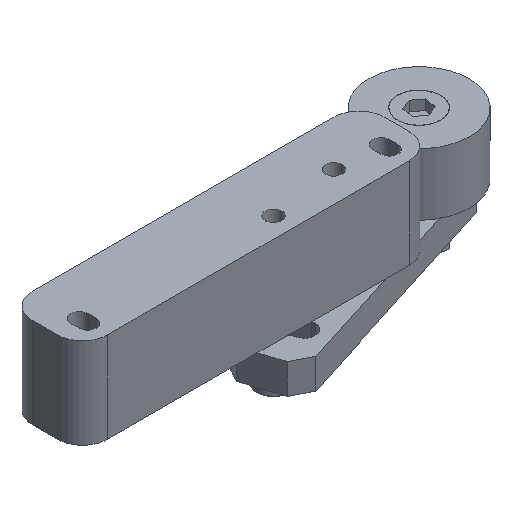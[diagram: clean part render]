
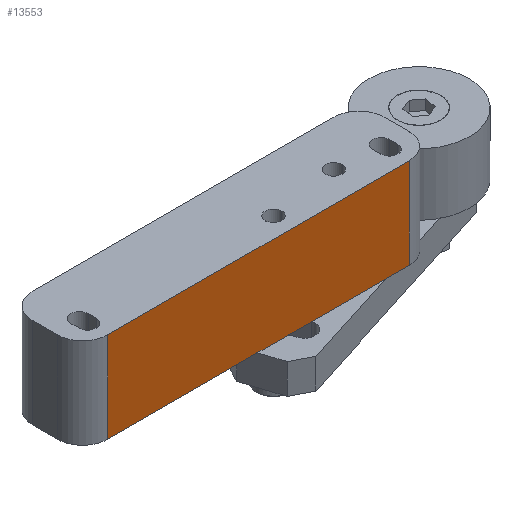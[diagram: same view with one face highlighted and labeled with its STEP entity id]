
A CAD part, isometric view. The second image highlights one B-rep face of the part: STEP entity #13553.
In plain terms, the highlighted planar face has unit normal (0, -1, 0).
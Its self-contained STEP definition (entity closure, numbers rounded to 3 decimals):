
#313 = DIRECTION ( 'NONE',  ( 1., 0., 0. ) ) ;
#407 = CARTESIAN_POINT ( 'NONE',  ( 5., 0., 18. ) ) ;
#564 = FACE_OUTER_BOUND ( 'NONE', #13213, .T. ) ;
#1433 = VERTEX_POINT ( 'NONE', #407 ) ;
#1753 = ORIENTED_EDGE ( 'NONE', *, *, #21065, .T. ) ;
#2055 = DIRECTION ( 'NONE',  ( 1., 0., 0. ) ) ;
#4825 = EDGE_CURVE ( 'NONE', #11472, #10801, #14141, .T. ) ;
#5055 = CARTESIAN_POINT ( 'NONE',  ( 0., 0., 18. ) ) ;
#5713 = EDGE_CURVE ( 'NONE', #21594, #11472, #28750, .T. ) ;
#7767 = CARTESIAN_POINT ( 'NONE',  ( 5., 0., 0. ) ) ;
#10769 = ORIENTED_EDGE ( 'NONE', *, *, #4825, .T. ) ;
#10801 = VERTEX_POINT ( 'NONE', #14399 ) ;
#11472 = VERTEX_POINT ( 'NONE', #19236 ) ;
#12232 = DIRECTION ( 'NONE',  ( 0., 0., -1. ) ) ;
#12748 = VECTOR ( 'NONE', #20631, 1000. ) ;
#13021 = CARTESIAN_POINT ( 'NONE',  ( 0., 0., 0. ) ) ;
#13213 = EDGE_LOOP ( 'NONE', ( #28787, #10769, #20588, #1753 ) ) ;
#13553 = ADVANCED_FACE ( 'NONE', ( #564 ), #25053, .F. ) ;
#13988 = DIRECTION ( 'NONE',  ( 0., 1., 0. ) ) ;
#14141 = LINE ( 'NONE', #17868, #12748 ) ;
#14399 = CARTESIAN_POINT ( 'NONE',  ( 65., 0., 18. ) ) ;
#14562 = DIRECTION ( 'NONE',  ( 0., 0., 1. ) ) ;
#15077 = VECTOR ( 'NONE', #2055, 1000. ) ;
#17868 = CARTESIAN_POINT ( 'NONE',  ( 65., 0., 18. ) ) ;
#19236 = CARTESIAN_POINT ( 'NONE',  ( 65., 0., 0. ) ) ;
#20419 = VECTOR ( 'NONE', #313, 1000. ) ;
#20588 = ORIENTED_EDGE ( 'NONE', *, *, #28575, .F. ) ;
#20631 = DIRECTION ( 'NONE',  ( 0., 0., 1. ) ) ;
#20916 = LINE ( 'NONE', #23150, #25823 ) ;
#21065 = EDGE_CURVE ( 'NONE', #1433, #21594, #20916, .T. ) ;
#21342 = AXIS2_PLACEMENT_3D ( 'NONE', #5055, #13988, #14562 ) ;
#21594 = VERTEX_POINT ( 'NONE', #7767 ) ;
#23150 = CARTESIAN_POINT ( 'NONE',  ( 5., 0., 18. ) ) ;
#25053 = PLANE ( 'NONE',  #21342 ) ;
#25823 = VECTOR ( 'NONE', #12232, 1000. ) ;
#26851 = LINE ( 'NONE', #27296, #20419 ) ;
#27296 = CARTESIAN_POINT ( 'NONE',  ( 0., 0., 18. ) ) ;
#28575 = EDGE_CURVE ( 'NONE', #1433, #10801, #26851, .T. ) ;
#28750 = LINE ( 'NONE', #13021, #15077 ) ;
#28787 = ORIENTED_EDGE ( 'NONE', *, *, #5713, .T. ) ;
